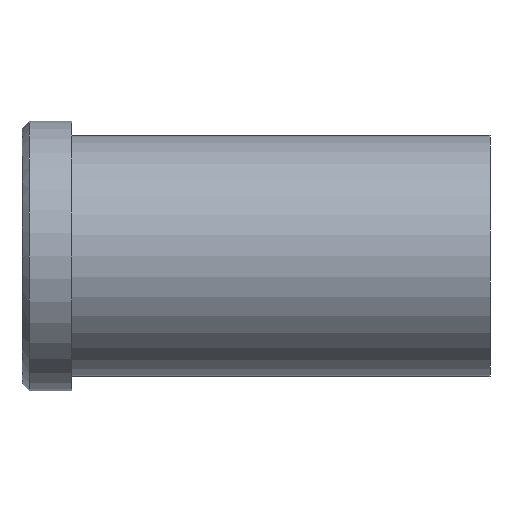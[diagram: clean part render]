
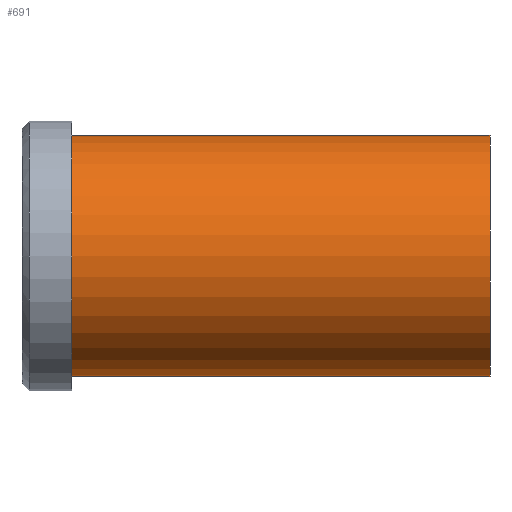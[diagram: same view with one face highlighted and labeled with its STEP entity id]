
A CAD part, front view. The second image highlights one B-rep face of the part: STEP entity #691.
In plain terms, the highlighted cylindrical face has radius 17 mm (diameter 34 mm), a partial arc.
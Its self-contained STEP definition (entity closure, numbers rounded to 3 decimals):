
#501=CARTESIAN_POINT('Vertex',(0.,0.,-17.)) ;
#506=CARTESIAN_POINT('Axis2P3D Location',(0.,0.,0.)) ;
#510=CARTESIAN_POINT('Vertex',(0.,-17.,0.)) ;
#513=CARTESIAN_POINT('Axis2P3D Location',(0.,0.,0.)) ;
#517=CARTESIAN_POINT('Vertex',(0.,0.,17.)) ;
#631=CARTESIAN_POINT('Line Origine',(59.,0.,17.)) ;
#635=CARTESIAN_POINT('Vertex',(59.,0.,17.)) ;
#649=CARTESIAN_POINT('Vertex',(59.,0.,-17.)) ;
#652=CARTESIAN_POINT('Line Origine',(59.,0.,-17.)) ;
#666=CARTESIAN_POINT('Axis2P3D Location',(59.,0.,0.)) ;
#671=CARTESIAN_POINT('Axis2P3D Location',(59.,0.,0.)) ;
#675=CARTESIAN_POINT('Vertex',(59.,-17.,0.)) ;
#678=CARTESIAN_POINT('Axis2P3D Location',(59.,0.,0.)) ;
#507=DIRECTION('Axis2P3D Direction',(1.,0.,-0.)) ;
#514=DIRECTION('Axis2P3D Direction',(1.,0.,-0.)) ;
#632=DIRECTION('Vector Direction',(-1.,0.,0.)) ;
#653=DIRECTION('Vector Direction',(-1.,0.,0.)) ;
#667=DIRECTION('Axis2P3D Direction',(-1.,-0.,-0.)) ;
#668=DIRECTION('Axis2P3D XDirection',(0.,0.,-1.)) ;
#672=DIRECTION('Axis2P3D Direction',(-1.,-0.,-0.)) ;
#679=DIRECTION('Axis2P3D Direction',(-1.,-0.,-0.)) ;
#508=AXIS2_PLACEMENT_3D('Circle Axis2P3D',#506,#507,$) ;
#515=AXIS2_PLACEMENT_3D('Circle Axis2P3D',#513,#514,$) ;
#669=AXIS2_PLACEMENT_3D('Cylinder Axis2P3D',#666,#667,#668) ;
#673=AXIS2_PLACEMENT_3D('Circle Axis2P3D',#671,#672,$) ;
#680=AXIS2_PLACEMENT_3D('Circle Axis2P3D',#678,#679,$) ;
#684=ORIENTED_EDGE('',*,*,#656,.T.) ;
#685=ORIENTED_EDGE('',*,*,#677,.F.) ;
#686=ORIENTED_EDGE('',*,*,#682,.F.) ;
#687=ORIENTED_EDGE('',*,*,#637,.T.) ;
#688=ORIENTED_EDGE('',*,*,#519,.T.) ;
#689=ORIENTED_EDGE('',*,*,#512,.T.) ;
#633=VECTOR('Line Direction',#632,1.) ;
#654=VECTOR('Line Direction',#653,1.) ;
#691=ADVANCED_FACE('353-25X66',(#690),#670,.T.) ;
#509=CIRCLE('generated circle',#508,17.) ;
#516=CIRCLE('generated circle',#515,17.) ;
#674=CIRCLE('generated circle',#673,17.) ;
#681=CIRCLE('generated circle',#680,17.) ;
#670=CYLINDRICAL_SURFACE('generated cylinder',#669,17.) ;
#512=EDGE_CURVE('',#511,#502,#509,.T.) ;
#519=EDGE_CURVE('',#518,#511,#516,.T.) ;
#637=EDGE_CURVE('',#636,#518,#634,.T.) ;
#656=EDGE_CURVE('',#502,#650,#655,.F.) ;
#677=EDGE_CURVE('',#676,#650,#674,.F.) ;
#682=EDGE_CURVE('',#636,#676,#681,.F.) ;
#683=EDGE_LOOP('',(#684,#685,#686,#687,#688,#689)) ;
#690=FACE_OUTER_BOUND('',#683,.T.) ;
#634=LINE('Line',#631,#633) ;
#655=LINE('Line',#652,#654) ;
#502=VERTEX_POINT('',#501) ;
#511=VERTEX_POINT('',#510) ;
#518=VERTEX_POINT('',#517) ;
#636=VERTEX_POINT('',#635) ;
#650=VERTEX_POINT('',#649) ;
#676=VERTEX_POINT('',#675) ;
